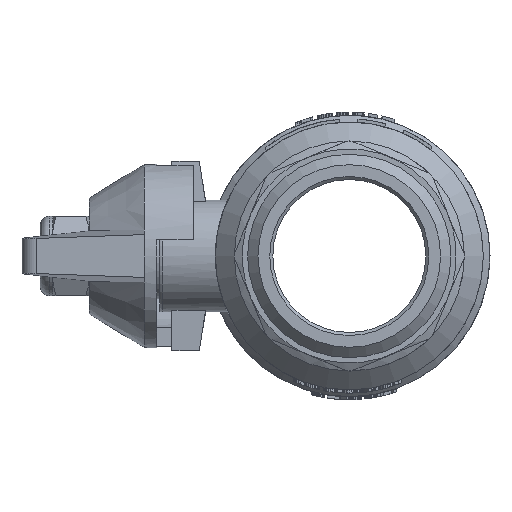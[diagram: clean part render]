
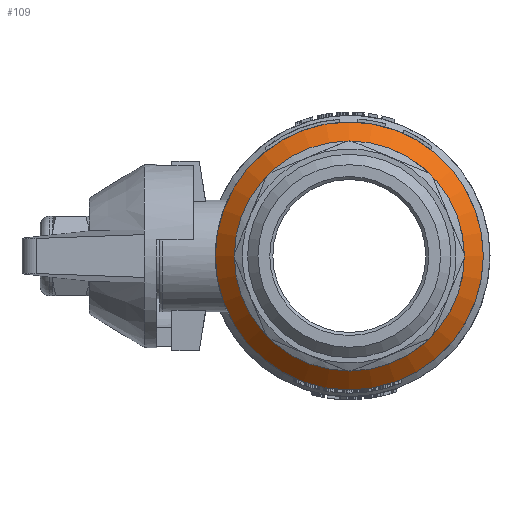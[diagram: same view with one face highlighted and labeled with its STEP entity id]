
A CAD part, left-side view. The second image highlights one B-rep face of the part: STEP entity #109.
In plain terms, the highlighted conical face has half-angle 45 degrees and reference radius 20.35 mm.
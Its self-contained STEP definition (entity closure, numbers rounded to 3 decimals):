
#109=ADVANCED_FACE('',(#2085,#2087),#2089,.T.);
#2085=FACE_OUTER_BOUND('',#2086,.T.);
#2086=EDGE_LOOP('',(#13592));
#2087=FACE_OUTER_BOUND('',#2088,.T.);
#2088=EDGE_LOOP('',(#13593));
#2089=CONICAL_SURFACE('',#2090,20.35,0.785);
#2090=AXIS2_PLACEMENT_3D('',#2091,#2092,#2093);
#2091=CARTESIAN_POINT('',(-11.7,0.,0.));
#2092=DIRECTION('',(1.,0.,0.));
#2093=DIRECTION('',(0.,0.,-1.));
#13592=ORIENTED_EDGE('',*,*,#22505,.T.);
#13593=ORIENTED_EDGE('',*,*,#22064,.T.);
#22064=EDGE_CURVE('',#26674,#26674,#26675,.T.);
#22505=EDGE_CURVE('',#27556,#27556,#27557,.F.);
#26674=VERTEX_POINT('',#36719);
#26675=CIRCLE('',#36720,18.8);
#27556=VERTEX_POINT('',#38929);
#27557=CIRCLE('',#38930,21.9);
#36719=CARTESIAN_POINT('',(-13.25,0.,-18.8));
#36720=AXIS2_PLACEMENT_3D('',#36721,#36722,#36723);
#36721=CARTESIAN_POINT('',(-13.25,0.,0.));
#36722=DIRECTION('',(1.,0.,0.));
#36723=DIRECTION('',(0.,0.,-1.));
#38929=CARTESIAN_POINT('',(-10.15,0.,-21.9));
#38930=AXIS2_PLACEMENT_3D('',#38931,#38932,#38933);
#38931=CARTESIAN_POINT('',(-10.15,0.,0.));
#38932=DIRECTION('',(1.,0.,0.));
#38933=DIRECTION('',(0.,0.,-1.));
